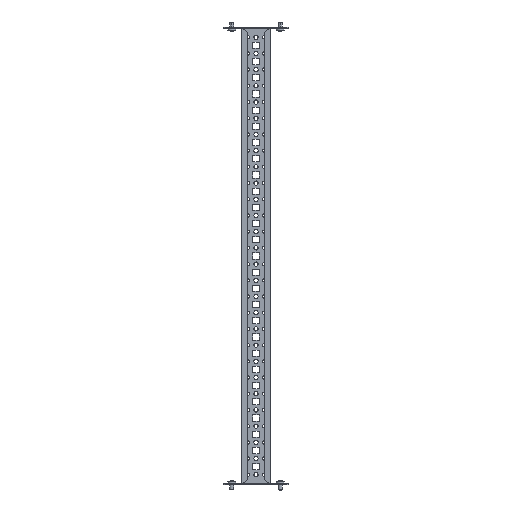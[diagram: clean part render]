
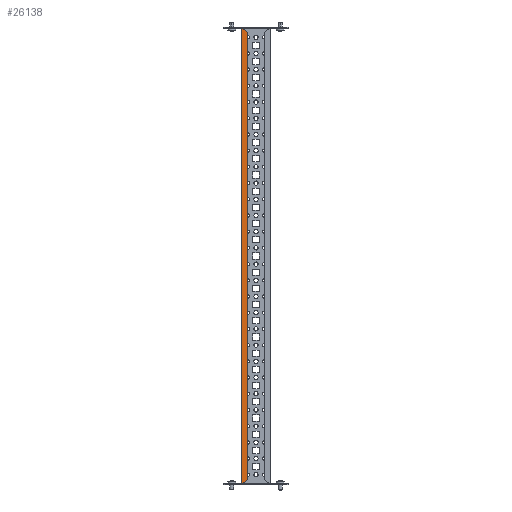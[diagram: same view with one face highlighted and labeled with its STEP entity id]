
A CAD part, front view. The second image highlights one B-rep face of the part: STEP entity #26138.
In plain terms, the highlighted planar face has unit normal (0, -1, 0).
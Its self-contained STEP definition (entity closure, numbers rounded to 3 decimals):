
#254 = EDGE_CURVE ( 'NONE', #21551, #22400, #21706, .T. ) ;
#995 = LINE ( 'NONE', #19723, #4169 ) ;
#1292 = VERTEX_POINT ( 'NONE', #9631 ) ;
#1502 = DIRECTION ( 'NONE',  ( 0.707, 0., -0.707 ) ) ;
#2067 = EDGE_CURVE ( 'NONE', #23983, #18159, #12354, .T. ) ;
#2069 = ORIENTED_EDGE ( 'NONE', *, *, #254, .F. ) ;
#2123 = VECTOR ( 'NONE', #25289, 1000. ) ;
#2392 = LINE ( 'NONE', #24890, #2123 ) ;
#2941 = VERTEX_POINT ( 'NONE', #16196 ) ;
#3160 = DIRECTION ( 'NONE',  ( 0., 0., 1. ) ) ;
#4169 = VECTOR ( 'NONE', #3160, 1000. ) ;
#4958 = CARTESIAN_POINT ( 'NONE',  ( 345., -94., 13.5 ) ) ;
#5413 = LINE ( 'NONE', #11763, #19799 ) ;
#5695 = ORIENTED_EDGE ( 'NONE', *, *, #20137, .F. ) ;
#5786 = VECTOR ( 'NONE', #26002, 1000. ) ;
#6151 = DIRECTION ( 'NONE',  ( 0., 1., 0. ) ) ;
#6173 = EDGE_CURVE ( 'NONE', #21551, #16010, #22138, .T. ) ;
#6426 = CARTESIAN_POINT ( 'NONE',  ( -350., -94., 23. ) ) ;
#7775 = DIRECTION ( 'NONE',  ( -1., 0., 0. ) ) ;
#7809 = ORIENTED_EDGE ( 'NONE', *, *, #17637, .F. ) ;
#8031 = FACE_OUTER_BOUND ( 'NONE', #8588, .T. ) ;
#8304 = PLANE ( 'NONE',  #12517 ) ;
#8588 = EDGE_LOOP ( 'NONE', ( #5695, #11997, #2069, #15338, #10947, #21490, #12103, #7809 ) ) ;
#9332 = CARTESIAN_POINT ( 'NONE',  ( -345., -94., 13.5 ) ) ;
#9421 = CARTESIAN_POINT ( 'NONE',  ( -350., -94., 13.5 ) ) ;
#9463 = DIRECTION ( 'NONE',  ( 0., 0., 1. ) ) ;
#9604 = CARTESIAN_POINT ( 'NONE',  ( 350., -94., 20. ) ) ;
#9631 = CARTESIAN_POINT ( 'NONE',  ( -350., -94., 20. ) ) ;
#9894 = VECTOR ( 'NONE', #7775, 1000. ) ;
#10145 = CARTESIAN_POINT ( 'NONE',  ( 350., -94., 18.5 ) ) ;
#10947 = ORIENTED_EDGE ( 'NONE', *, *, #13021, .F. ) ;
#11763 = CARTESIAN_POINT ( 'NONE',  ( -345., -94., 13.5 ) ) ;
#11997 = ORIENTED_EDGE ( 'NONE', *, *, #23871, .T. ) ;
#12103 = ORIENTED_EDGE ( 'NONE', *, *, #2067, .T. ) ;
#12354 = LINE ( 'NONE', #22084, #9894 ) ;
#12517 = AXIS2_PLACEMENT_3D ( 'NONE', #16258, #6151, #24479 ) ;
#13021 = EDGE_CURVE ( 'NONE', #2941, #16010, #2392, .T. ) ;
#13379 = CARTESIAN_POINT ( 'NONE',  ( 350., -94., 18.5 ) ) ;
#15338 = ORIENTED_EDGE ( 'NONE', *, *, #6173, .T. ) ;
#16010 = VERTEX_POINT ( 'NONE', #10145 ) ;
#16196 = CARTESIAN_POINT ( 'NONE',  ( 350., -94., 20. ) ) ;
#16258 = CARTESIAN_POINT ( 'NONE',  ( 0., -94., 0. ) ) ;
#16711 = LINE ( 'NONE', #20896, #21389 ) ;
#17637 = EDGE_CURVE ( 'NONE', #1292, #18159, #995, .T. ) ;
#18159 = VERTEX_POINT ( 'NONE', #6426 ) ;
#18176 = VECTOR ( 'NONE', #9463, 1000. ) ;
#19706 = DIRECTION ( 'NONE',  ( 0.707, 0., 0.707 ) ) ;
#19723 = CARTESIAN_POINT ( 'NONE',  ( -350., -94., 0. ) ) ;
#19799 = VECTOR ( 'NONE', #1502, 1000. ) ;
#19984 = LINE ( 'NONE', #9604, #18176 ) ;
#20137 = EDGE_CURVE ( 'NONE', #21225, #1292, #16711, .T. ) ;
#20896 = CARTESIAN_POINT ( 'NONE',  ( -350., -94., 21. ) ) ;
#21225 = VERTEX_POINT ( 'NONE', #24828 ) ;
#21389 = VECTOR ( 'NONE', #22921, 1000. ) ;
#21490 = ORIENTED_EDGE ( 'NONE', *, *, #22626, .T. ) ;
#21551 = VERTEX_POINT ( 'NONE', #4958 ) ;
#21706 = LINE ( 'NONE', #9421, #5786 ) ;
#22084 = CARTESIAN_POINT ( 'NONE',  ( 0., -94., 23. ) ) ;
#22138 = LINE ( 'NONE', #13379, #24761 ) ;
#22400 = VERTEX_POINT ( 'NONE', #9332 ) ;
#22626 = EDGE_CURVE ( 'NONE', #2941, #23983, #19984, .T. ) ;
#22921 = DIRECTION ( 'NONE',  ( 0., 0., 1. ) ) ;
#23871 = EDGE_CURVE ( 'NONE', #21225, #22400, #5413, .T. ) ;
#23983 = VERTEX_POINT ( 'NONE', #24800 ) ;
#24479 = DIRECTION ( 'NONE',  ( 1., 0., 0. ) ) ;
#24761 = VECTOR ( 'NONE', #19706, 1000. ) ;
#24800 = CARTESIAN_POINT ( 'NONE',  ( 350., -94., 23. ) ) ;
#24828 = CARTESIAN_POINT ( 'NONE',  ( -350., -94., 18.5 ) ) ;
#24890 = CARTESIAN_POINT ( 'NONE',  ( 350., -94., 13.5 ) ) ;
#25289 = DIRECTION ( 'NONE',  ( 0., 0., -1. ) ) ;
#26002 = DIRECTION ( 'NONE',  ( -1., 0., 0. ) ) ;
#26138 = ADVANCED_FACE ( 'NONE', ( #8031 ), #8304, .F. ) ;
